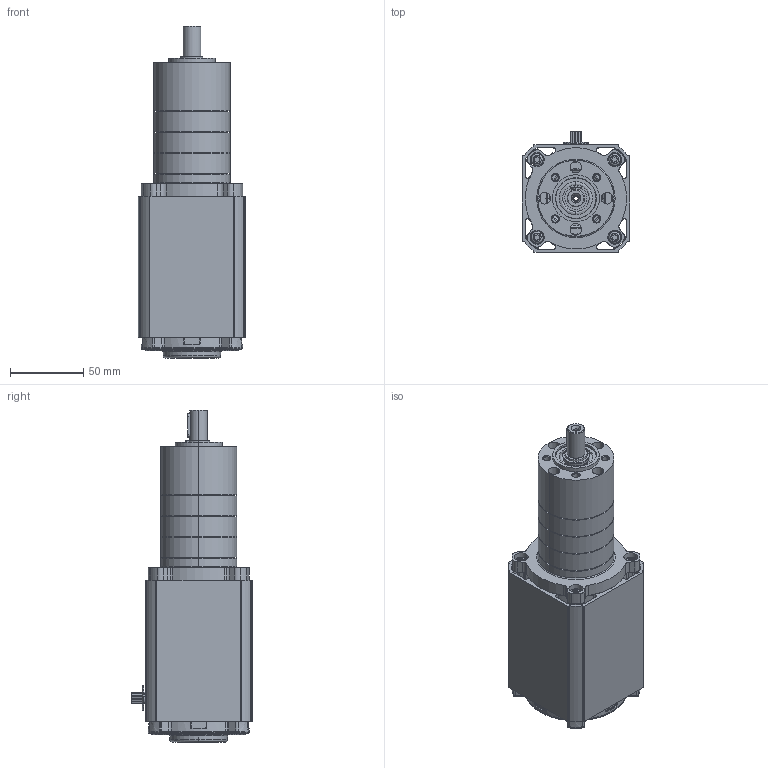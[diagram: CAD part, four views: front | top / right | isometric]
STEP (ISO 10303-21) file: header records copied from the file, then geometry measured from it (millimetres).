
FILE_DESCRIPTION (( 'STEP AP214' ), '1' );
FILE_NAME ('BL6520-PL5200i_3S.STEP', '2013-03-04T13:47:36', ( '' ), ( '' ), 'SwSTEP 2.0', 'SolidWorks 2013', '' );
FILE_SCHEMA (( 'AUTOMOTIVE_DESIGN' ));
Length unit declared in the file: inch
Products named in the file (1): BL6520-PL5200i_3S
Bounding box: 73.36 x 82.37 x 226.67 mm (x, y, z)
Surface area: 100303.4 mm2 (no closed solid volume)
Topology: 0 solids, 61 shells, 930 faces, 3176 edges, 2262 vertices
Faces by surface type: cylinder 394, plane 268, torus 100, cone 95, bspline 67, sphere 6
Entity records: 51852 total; most frequent: CARTESIAN_POINT 12853, DIRECTION 5674, ORIENTED_EDGE 5168, EDGE_CURVE 3169, VERTEX_POINT 2262, AXIS2_PLACEMENT_3D 2145, VECTOR 1384, LINE 1384
